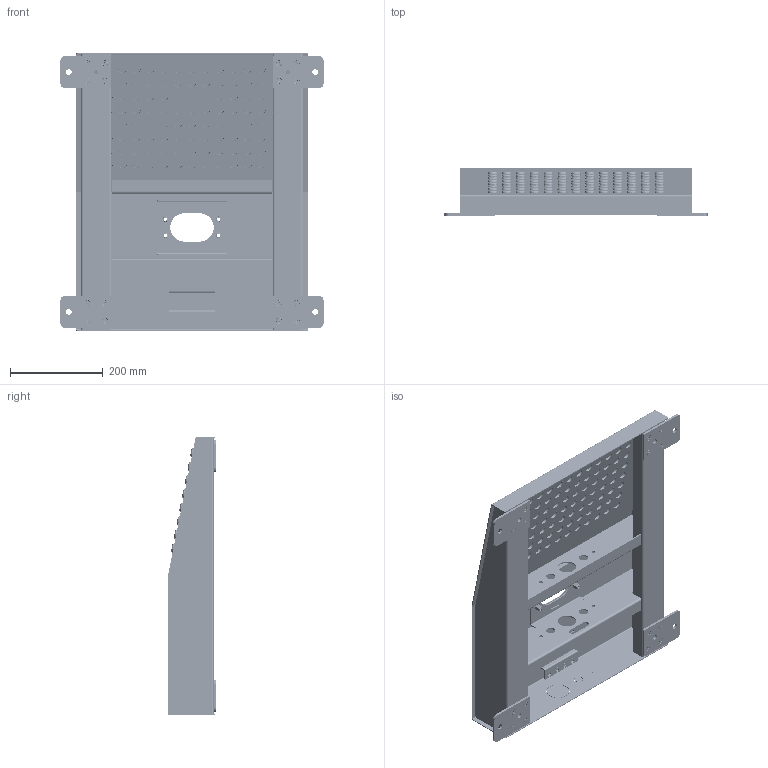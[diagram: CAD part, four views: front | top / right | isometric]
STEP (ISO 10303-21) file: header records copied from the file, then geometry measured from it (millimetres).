
FILE_DESCRIPTION (( 'STEP AP203' ), '1' );
FILE_NAME ('KS.060.01.STEP', '2025-01-28T12:32:13', ( '' ), ( '' ), 'SwSTEP 2.0', 'SolidWorks 2022', '' );
FILE_SCHEMA (( 'CONFIG_CONTROL_DESIGN' ));
Products named in the file (1): KS.060.01
Bounding box: 568 x 104 x 600 mm (x, y, z)
Surface area: 1488217.5 mm2
Topology: 144 solids, 145 shells, 4838 faces, 11211 edges, 6689 vertices
Faces by surface type: cone 2165, plane 1107, cylinder 1080, torus 325, sphere 139, bspline 22
Entity records: 138173 total; most frequent: DIRECTION 25926, CARTESIAN_POINT 24551, ORIENTED_EDGE 22396, EDGE_CURVE 11198, AXIS2_PLACEMENT_3D 10209, VERTEX_POINT 6690, VECTOR 5508, LINE 5508
